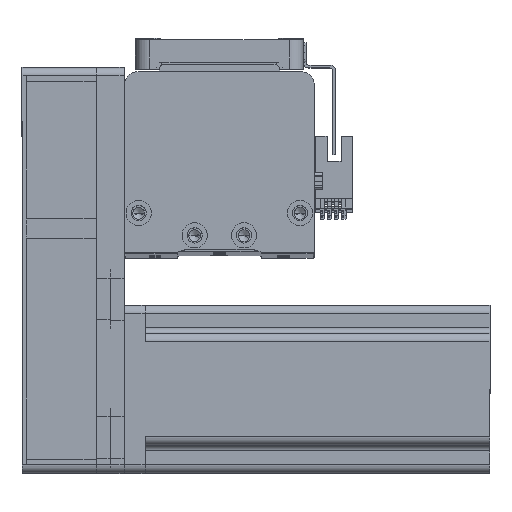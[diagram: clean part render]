
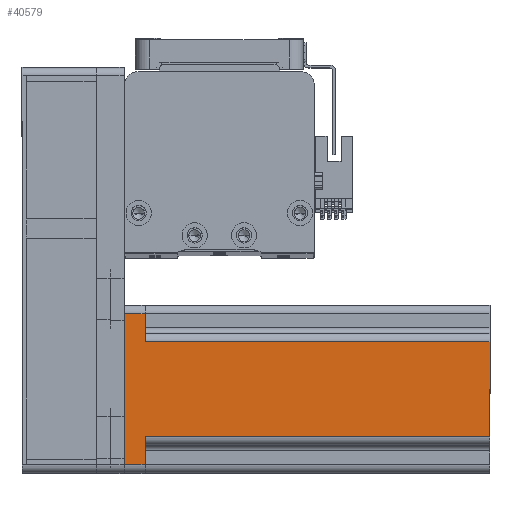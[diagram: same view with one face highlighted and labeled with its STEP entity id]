
A CAD part, top view. The second image highlights one B-rep face of the part: STEP entity #40579.
In plain terms, the highlighted planar face has unit normal (0, 0, 1) as drawn and (0, -1, 0) by its records, which use the part's own axes.
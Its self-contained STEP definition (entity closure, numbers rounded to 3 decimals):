
#397 = VECTOR ( 'NONE', #13631, 1000. ) ;
#546 = LINE ( 'NONE', #40763, #20117 ) ;
#2749 = DIRECTION ( 'NONE',  ( 0., 0., -1. ) ) ;
#3168 = LINE ( 'NONE', #37239, #23931 ) ;
#5435 = ORIENTED_EDGE ( 'NONE', *, *, #17276, .T. ) ;
#6593 = CARTESIAN_POINT ( 'NONE',  ( 27., -30., 7.5 ) ) ;
#7038 = EDGE_CURVE ( 'NONE', #37153, #39387, #31427, .T. ) ;
#7993 = ORIENTED_EDGE ( 'NONE', *, *, #16565, .F. ) ;
#8791 = EDGE_LOOP ( 'NONE', ( #7993, #45187, #27468, #27590, #5435, #30549, #9342, #29959 ) ) ;
#9342 = ORIENTED_EDGE ( 'NONE', *, *, #15267, .T. ) ;
#9456 = EDGE_CURVE ( 'NONE', #45633, #11613, #20092, .T. ) ;
#9885 = DIRECTION ( 'NONE',  ( 0., 0., 1. ) ) ;
#10150 = LINE ( 'NONE', #28412, #397 ) ;
#10164 = LINE ( 'NONE', #42329, #47243 ) ;
#11146 = DIRECTION ( 'NONE',  ( 0., 1., 0. ) ) ;
#11613 = VERTEX_POINT ( 'NONE', #22799 ) ;
#13631 = DIRECTION ( 'NONE',  ( 1., 0., 0. ) ) ;
#13752 = VECTOR ( 'NONE', #47915, 1000. ) ;
#15030 = DIRECTION ( 'NONE',  ( 1., 0., 0. ) ) ;
#15223 = EDGE_CURVE ( 'NONE', #45633, #28945, #44445, .T. ) ;
#15267 = EDGE_CURVE ( 'NONE', #44980, #37153, #546, .T. ) ;
#15402 = EDGE_CURVE ( 'NONE', #22291, #28945, #21829, .T. ) ;
#16145 = EDGE_CURVE ( 'NONE', #23378, #44980, #10164, .T. ) ;
#16565 = EDGE_CURVE ( 'NONE', #22291, #39387, #10150, .T. ) ;
#17276 = EDGE_CURVE ( 'NONE', #11613, #23378, #3168, .T. ) ;
#18607 = CARTESIAN_POINT ( 'NONE',  ( -17., -30., 130.7 ) ) ;
#20092 = LINE ( 'NONE', #47056, #29939 ) ;
#20117 = VECTOR ( 'NONE', #22146, 1000. ) ;
#20148 = DIRECTION ( 'NONE',  ( 0., 0., 1. ) ) ;
#21557 = VECTOR ( 'NONE', #9885, 1000. ) ;
#21829 = LINE ( 'NONE', #18607, #40354 ) ;
#22146 = DIRECTION ( 'NONE',  ( -1., 0., 0. ) ) ;
#22291 = VERTEX_POINT ( 'NONE', #39290 ) ;
#22799 = CARTESIAN_POINT ( 'NONE',  ( -27., -30., 0. ) ) ;
#23378 = VERTEX_POINT ( 'NONE', #43187 ) ;
#23931 = VECTOR ( 'NONE', #15030, 1000. ) ;
#26051 = DIRECTION ( 'NONE',  ( 0., 0., -1. ) ) ;
#26454 = CARTESIAN_POINT ( 'NONE',  ( 17., -30., 7.5 ) ) ;
#27468 = ORIENTED_EDGE ( 'NONE', *, *, #15223, .F. ) ;
#27590 = ORIENTED_EDGE ( 'NONE', *, *, #9456, .T. ) ;
#28412 = CARTESIAN_POINT ( 'NONE',  ( 30., -30., 130.7 ) ) ;
#28945 = VERTEX_POINT ( 'NONE', #40496 ) ;
#29449 = CARTESIAN_POINT ( 'NONE',  ( -20., -30., 7.5 ) ) ;
#29939 = VECTOR ( 'NONE', #2749, 1000. ) ;
#29959 = ORIENTED_EDGE ( 'NONE', *, *, #7038, .T. ) ;
#30549 = ORIENTED_EDGE ( 'NONE', *, *, #16145, .T. ) ;
#31427 = LINE ( 'NONE', #35780, #21557 ) ;
#33337 = FACE_OUTER_BOUND ( 'NONE', #8791, .T. ) ;
#33338 = CARTESIAN_POINT ( 'NONE',  ( 30., -30., 130.7 ) ) ;
#35780 = CARTESIAN_POINT ( 'NONE',  ( 17., -30., 130.7 ) ) ;
#36885 = PLANE ( 'NONE',  #44262 ) ;
#37046 = DIRECTION ( 'NONE',  ( -1., 0., 0. ) ) ;
#37153 = VERTEX_POINT ( 'NONE', #26454 ) ;
#37239 = CARTESIAN_POINT ( 'NONE',  ( 30., -30., 0. ) ) ;
#39290 = CARTESIAN_POINT ( 'NONE',  ( -17., -30., 130.7 ) ) ;
#39387 = VERTEX_POINT ( 'NONE', #44420 ) ;
#40354 = VECTOR ( 'NONE', #26051, 1000. ) ;
#40496 = CARTESIAN_POINT ( 'NONE',  ( -17., -30., 7.5 ) ) ;
#40579 = ADVANCED_FACE ( 'NONE', ( #33337 ), #36885, .F. ) ;
#40763 = CARTESIAN_POINT ( 'NONE',  ( 20., -30., 7.5 ) ) ;
#42329 = CARTESIAN_POINT ( 'NONE',  ( 27., -30., 130.7 ) ) ;
#43187 = CARTESIAN_POINT ( 'NONE',  ( 27., -30., 0. ) ) ;
#44262 = AXIS2_PLACEMENT_3D ( 'NONE', #33338, #11146, #37046 ) ;
#44420 = CARTESIAN_POINT ( 'NONE',  ( 17., -30., 130.7 ) ) ;
#44445 = LINE ( 'NONE', #29449, #13752 ) ;
#44980 = VERTEX_POINT ( 'NONE', #6593 ) ;
#45187 = ORIENTED_EDGE ( 'NONE', *, *, #15402, .T. ) ;
#45633 = VERTEX_POINT ( 'NONE', #47907 ) ;
#47056 = CARTESIAN_POINT ( 'NONE',  ( -27., -30., 130.7 ) ) ;
#47243 = VECTOR ( 'NONE', #20148, 1000. ) ;
#47907 = CARTESIAN_POINT ( 'NONE',  ( -27., -30., 7.5 ) ) ;
#47915 = DIRECTION ( 'NONE',  ( 1., 0., 0. ) ) ;
